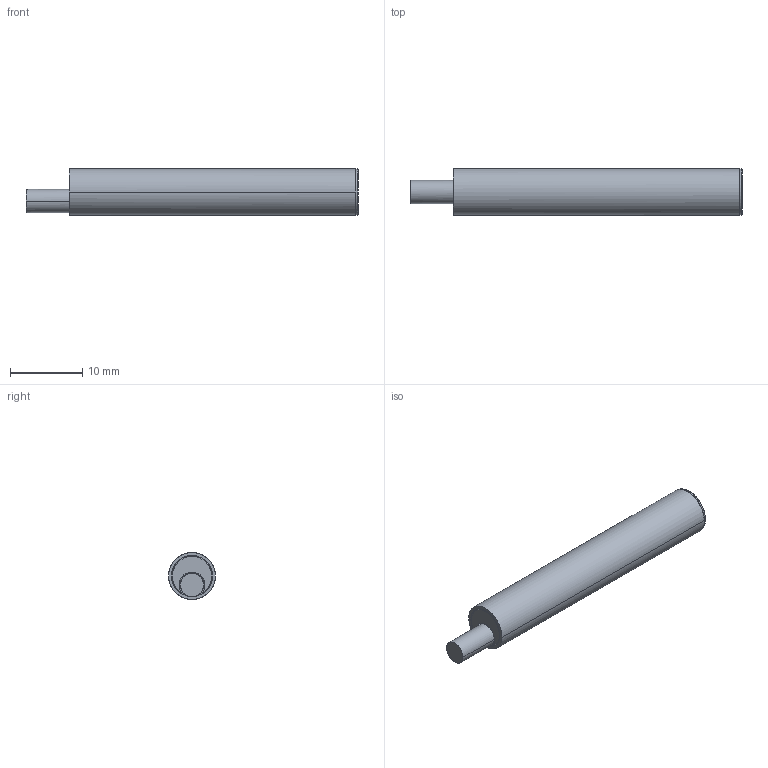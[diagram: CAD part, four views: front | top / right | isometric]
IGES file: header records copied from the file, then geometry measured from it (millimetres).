
Start section: Comment
Global section: file name: IFRM 06xxxA1_L.igs; native system:  By Spatial Corp.; preprocessor: XPlus GENERIC/IGES 3.0; author: Author; organization: Title; date: 20040805.075319; units: inch
Bounding box: 45.95 x 6.5 x 6.5 mm (x, y, z)
Surface area: 945.1 mm2 (no closed solid volume)
Topology: 0 solids, 0 shells, 26 faces, 116 edges, 116 vertices
Faces by surface type: bspline 26
